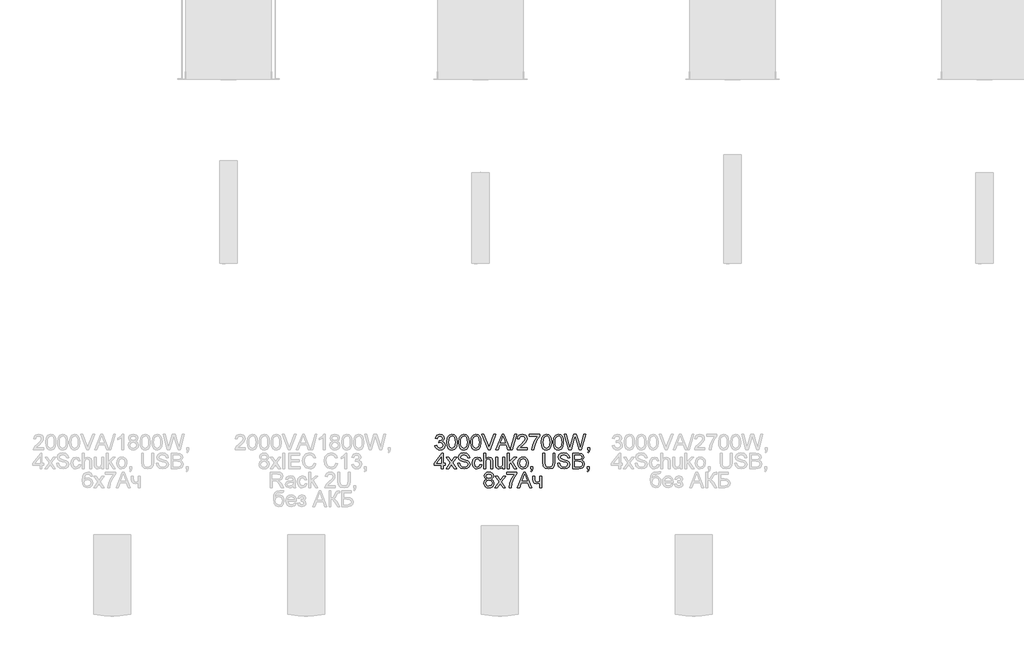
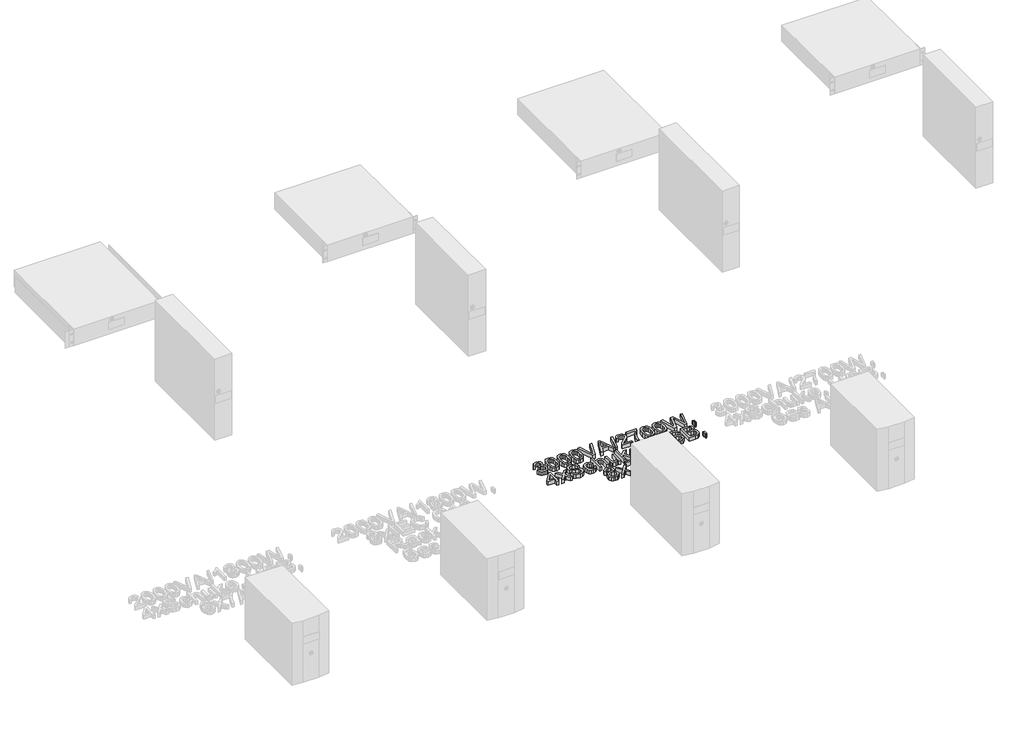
# One storey, part 58 of 74: 1 proxy.
"""IFC4 building model written with IfcOpenShell, lengths in millimetres."""

from ifc_helpers import new_model, si_unit, origin, origin_with_axes, place, context, project, spatial, polyline, outline, extrude, element, save

model = new_model("IFC4")

# Units and contexts
model_context = context("Model", 3, world=origin())
ifc_project = project(units=[si_unit("LENGTHUNIT", "METRE", prefix="MILLI")], contexts=[model_context])

# Site, building, storey
site = spatial("IfcSite", under=ifc_project)
building = spatial("IfcBuilding", under=site)
storey = spatial("IfcBuildingStorey", under=building, Name="Этаж 01", Elevation=0.0)

# Proxy
placement = place(None, origin())
element("IfcBuildingElementProxy", 1, Name="80 мм Arial", ObjectType="80 мм Arial", at=placement, inside=storey, context=model_context, shape_type="SweptSolid", body=[
    extrude(outline(polyline([(5017.6292761, -716.2878926), (5027.6749071, -715.0321887), (5033.2176625, -725.6075698), (5043.5870297, -728.8449313), (5055.7909018, -724.3911066), (5060.3232079, -713.364457), (5055.8301425, -702.9754694), (5044.4110854, -698.8650013), (5037.3673714, -699.9637422), (5038.4857327, -689.9181112), (5040.0946033, -690.0358334), (5051.4940401, -687.1516385), (5056.5560963, -678.2832299), (5052.8870865, -670.4252705), (5043.4300667, -667.3154414), (5033.8553247, -670.4547011), (5028.930611, -679.8724801), (5018.88498, -678.6167763), (5027.1059163, -662.8616167), (5043.0769, -657.2698104), (5055.1924804, -660.0264728), (5063.6684816, -667.560696), (5066.6017273, -677.6946187), (5063.8156344, -686.9554348), (5055.5750777, -693.6067413), (5066.5232458, -700.4738719), (5070.368839, -713.5410403), (5068.4460424, -723.3316065), (5062.6776527, -731.5133021), (5053.9711122, -737.0462473), (5043.233863, -738.8905623), (5033.5217783, -737.3160274), (5025.614768, -732.5924226), (5020.1161584, -725.3672202), (5017.6292761, -716.2878926)])), origin_with_axes(), (0.0, 0.0, 1.0), 20.0),
    extrude(outline(polyline([(5079.1587661, -698.0998067), (5082.1116322, -674.9771971), (5090.881939, -661.6451535), (5105.5285475, -657.2698104), (5117.2615306, -659.8596996), (5125.3647447, -667.3252516), (5130.0736342, -679.2151976), (5131.8983289, -698.0998067), (5128.9748933, -721.1243145), (5120.2340171, -734.4857886), (5105.5285475, -738.8905623), (5095.090509, -736.977576), (5087.1638783, -731.2386168), (5081.1600442, -717.6466034), (5079.1587661, -698.0998067)]), holes=[polyline([(5089.2043971, -698.0801864), (5090.3816195, -713.8819443), (5093.9132867, -723.0274907), (5105.5285475, -728.8449313), (5117.1438084, -723.0078703), (5120.6754755, -713.8574189), (5121.8526979, -698.0801864), (5120.7147163, -682.6340476), (5117.3007714, -673.4173774), (5112.0523216, -668.8409254), (5105.4108253, -667.3154414), (5094.0702496, -672.6914236), (5090.4208602, -682.4819898), (5089.2043971, -698.0801864)])]), origin_with_axes(), (0.0, 0.0, 1.0), 20.0),
    extrude(outline(polyline([(5140.6882561, -698.0998067), (5143.6411222, -674.9771971), (5152.411429, -661.6451535), (5167.0580375, -657.2698104), (5178.7910206, -659.8596996), (5186.8942347, -667.3252516), (5191.6031242, -679.2151976), (5193.4278189, -698.0998067), (5190.5043833, -721.1243145), (5181.7635071, -734.4857886), (5167.0580375, -738.8905623), (5156.619999, -736.977576), (5148.6933683, -731.2386168), (5142.6895341, -717.6466034), (5140.6882561, -698.0998067)]), holes=[polyline([(5150.7338871, -698.0801864), (5151.9111095, -713.8819443), (5155.4427766, -723.0274907), (5167.0580375, -728.8449313), (5178.6732983, -723.0078703), (5182.2049655, -713.8574189), (5183.3821879, -698.0801864), (5182.2442062, -682.6340476), (5178.8302613, -673.4173774), (5173.5818115, -668.8409254), (5166.9403152, -667.3154414), (5155.5997396, -672.6914236), (5151.9503502, -682.4819898), (5150.7338871, -698.0801864)])]), origin_with_axes(), (0.0, 0.0, 1.0), 20.0),
    extrude(outline(polyline([(5202.217746, -698.0998067), (5205.1706122, -674.9771971), (5213.9409189, -661.6451535), (5228.5875274, -657.2698104), (5240.3205105, -659.8596996), (5248.4237246, -667.3252516), (5253.1326142, -679.2151976), (5254.9573089, -698.0998067), (5252.0338733, -721.1243145), (5243.2929971, -734.4857886), (5228.5875274, -738.8905623), (5218.149489, -736.977576), (5210.2228582, -731.2386168), (5204.2190241, -717.6466034), (5202.217746, -698.0998067)]), holes=[polyline([(5212.263377, -698.0801864), (5213.4405994, -713.8819443), (5216.9722666, -723.0274907), (5228.5875274, -728.8449313), (5240.2027883, -723.0078703), (5243.7344555, -713.8574189), (5244.9116778, -698.0801864), (5243.7736962, -682.6340476), (5240.3597513, -673.4173774), (5235.1113015, -668.8409254), (5228.4698052, -667.3154414), (5217.1292296, -672.6914236), (5213.4798402, -682.4819898), (5212.263377, -698.0801864)])]), origin_with_axes(), (0.0, 0.0, 1.0), 20.0),
    extrude(outline(polyline([(5291.2549991, -737.6348585), (5259.2737909, -657.2698104), (5270.0257554, -657.2698104), (5291.4315824, -715.1695313), (5295.7676849, -728.2170794), (5300.0449262, -715.1695313), (5321.5096143, -657.2698104), (5332.2615788, -657.2698104), (5301.6341764, -737.6348585), (5291.2549991, -737.6348585)])), origin_with_axes(), (0.0, 0.0, 1.0), 20.0),
    extrude(outline(polyline([(5332.2419584, -737.6348585), (5364.3212684, -657.2698104), (5372.875751, -657.2698104), (5404.955061, -737.6348585), (5394.3404392, -737.6348585), (5385.1384842, -712.5207809), (5352.0389148, -712.5207809), (5342.8565802, -737.6348585), (5332.2419584, -737.6348585)]), holes=[polyline([(5355.727545, -702.4751499), (5381.4694745, -702.4751499), (5374.2295568, -682.7174342), (5368.5985097, -667.3154414), (5363.5953146, -680.9908414), (5355.727545, -702.4751499)])]), origin_with_axes(), (0.0, 0.0, 1.0), 20.0),
    extrude(outline(polyline([(5406.897478, -737.6348585), (5429.5001477, -657.2698104), (5438.5647601, -657.2698104), (5415.9620903, -737.6348585), (5406.897478, -737.6348585)])), origin_with_axes(), (0.0, 0.0, 1.0), 20.0),
    extrude(outline(polyline([(5494.7967493, -727.5892275), (5494.7967493, -737.6348585), (5442.0571865, -737.6348585), (5443.136307, -730.7088668), (5449.2382431, -720.045194), (5461.8149022, -708.4005026), (5479.159312, -691.6643244), (5483.4954145, -680.284508), (5479.4045667, -671.0727428), (5468.7212735, -667.3154414), (5457.5867118, -670.9844511), (5453.3585214, -681.128184), (5443.3128904, -679.8724801), (5445.7482692, -670.1554904), (5451.0138868, -663.0578204), (5458.835058, -658.7168129), (5468.9370976, -657.2698104), (5479.1127136, -658.8786809), (5486.9191696, -663.7052927), (5491.8855765, -670.9157798), (5493.5410455, -679.6762764), (5491.7555915, -689.2019675), (5485.8204287, -699.0513948), (5471.428885, -712.8150865), (5459.8724853, -722.4781203), (5455.3401791, -727.5892275), (5494.7967493, -727.5892275)])), origin_with_axes(), (0.0, 0.0, 1.0), 20.0),
    extrude(outline(polyline([(5504.8423804, -668.5711452), (5504.8423804, -658.5255142), (5557.5819432, -658.5255142), (5557.5819432, -666.6483487), (5542.6214087, -688.2601896), (5531.172921, -715.7973832), (5527.4450501, -737.6348585), (5517.3994191, -737.6348585), (5521.392165, -714.9733276), (5532.3501434, -689.3589305), (5547.5363122, -668.5711452), (5504.8423804, -668.5711452)])), origin_with_axes(), (0.0, 0.0, 1.0), 20.0),
    extrude(outline(polyline([(5566.3718703, -698.0998067), (5569.3247365, -674.9771971), (5578.0950432, -661.6451535), (5592.7416517, -657.2698104), (5604.4746348, -659.8596996), (5612.5778489, -667.3252516), (5617.2867385, -679.2151976), (5619.1114332, -698.0998067), (5616.1879976, -721.1243145), (5607.4471214, -734.4857886), (5592.7416517, -738.8905623), (5582.3036133, -736.977576), (5574.3769825, -731.2386168), (5568.3731484, -717.6466034), (5566.3718703, -698.0998067)]), holes=[polyline([(5576.4175013, -698.0801864), (5577.5947237, -713.8819443), (5581.1263909, -723.0274907), (5592.7416517, -728.8449313), (5604.3569126, -723.0078703), (5607.8885798, -713.8574189), (5609.0658021, -698.0801864), (5607.9278205, -682.6340476), (5604.5138756, -673.4173774), (5599.2654258, -668.8409254), (5592.6239295, -667.3154414), (5581.2833539, -672.6914236), (5577.6339645, -682.4819898), (5576.4175013, -698.0801864)])]), origin_with_axes(), (0.0, 0.0, 1.0), 20.0),
    extrude(outline(polyline([(5627.9013603, -698.0998067), (5630.8542264, -674.9771971), (5639.6245332, -661.6451535), (5654.2711417, -657.2698104), (5666.0041248, -659.8596996), (5674.1073389, -667.3252516), (5678.8162284, -679.2151976), (5680.6409231, -698.0998067), (5677.7174875, -721.1243145), (5668.9766113, -734.4857886), (5654.2711417, -738.8905623), (5643.8331032, -736.977576), (5635.9064725, -731.2386168), (5629.9026383, -717.6466034), (5627.9013603, -698.0998067)]), holes=[polyline([(5637.9469913, -698.0801864), (5639.1242137, -713.8819443), (5642.6558808, -723.0274907), (5654.2711417, -728.8449313), (5665.8864026, -723.0078703), (5669.4180697, -713.8574189), (5670.5952921, -698.0801864), (5669.4573105, -682.6340476), (5666.0433656, -673.4173774), (5660.7949158, -668.8409254), (5654.1534195, -667.3154414), (5642.8128438, -672.6914236), (5639.1634544, -682.4819898), (5637.9469913, -698.0801864)])]), origin_with_axes(), (0.0, 0.0, 1.0), 20.0),
    extrude(outline(polyline([(5707.5796954, -737.6348585), (5685.6637386, -657.2698104), (5696.0232956, -657.2698104), (5708.7372974, -710.0878547), (5712.661372, -726.3923847), (5716.8601318, -711.9714105), (5732.7918748, -657.2698104), (5747.7229787, -657.2698104), (5759.2989988, -696.9225843), (5767.9123426, -726.3923847), (5771.7186949, -710.5587436), (5784.5504189, -657.2698104), (5794.9099759, -657.2698104), (5772.9743988, -737.6348585), (5762.2420547, -737.6348585), (5742.9748484, -675.6344796), (5740.2868573, -666.981895), (5737.2653198, -677.4003131), (5719.7050859, -737.6348585), (5707.5796954, -737.6348585)])), origin_with_axes(), (0.0, 0.0, 1.0), 20.0),
    extrude(outline(polyline([(5806.2113108, -737.6348585), (5806.2113108, -727.5892275), (5816.2569418, -727.5892275), (5816.2569418, -737.6348585), (5814.4518675, -747.9061238), (5808.7227186, -753.9590089), (5806.2113108, -750.1918972), (5809.8999409, -745.8557948), (5811.2145059, -737.6348585), (5806.2113108, -737.6348585)])), origin_with_axes(), (0.0, 0.0, 1.0), 20.0),
    extrude(outline(polyline([(5050.2775769, -835.2147127), (5050.2775769, -816.3791546), (5013.8621645, -816.3791546), (5013.8621645, -806.3335236), (5052.7889847, -756.1053685), (5060.3232079, -756.1053685), (5060.3232079, -806.3335236), (5070.368839, -806.3335236), (5070.368839, -816.3791546), (5060.3232079, -816.3791546), (5060.3232079, -835.2147127), (5050.2775769, -835.2147127)]), holes=[polyline([(5050.2775769, -806.3335236), (5050.2775769, -775.2940934), (5026.2229995, -806.3335236), (5050.2775769, -806.3335236)])]), origin_with_axes(), (0.0, 0.0, 1.0), 20.0),
    extrude(outline(polyline([(5075.3916545, -835.2147127), (5096.8563426, -805.5487087), (5076.6473583, -776.1966305), (5088.7335082, -776.1966305), (5098.4848336, -790.3232991), (5103.0367601, -796.994226), (5106.9804551, -791.5397623), (5118.0855863, -776.1966305), (5130.1717361, -776.1966305), (5108.9424924, -805.5487087), (5129.3869212, -835.2147127), (5117.3007714, -835.2147127), (5104.9987974, -817.3797936), (5102.7424545, -814.1228117), (5087.4778043, -835.2147127), (5075.3916545, -835.2147127)])), origin_with_axes(), (0.0, 0.0, 1.0), 20.0),
    extrude(outline(polyline([(5135.6654406, -807.5892275), (5145.7110716, -807.5892275), (5148.9484331, -817.6446687), (5156.8554435, -824.0016695), (5168.9023525, -826.4247856), (5179.3992521, -824.5902807), (5186.178091, -819.5478448), (5188.4050034, -812.8082467), (5186.7372717, -806.5395375), (5179.9093818, -801.9778008), (5165.2823937, -798.1420178), (5149.5370443, -793.1878736), (5140.9923718, -785.7125115), (5138.1768483, -775.7257416), (5141.6594645, -764.3557354), (5151.832628, -756.3310028), (5166.7244911, -753.5939608), (5182.6169933, -756.4585352), (5193.2119948, -764.8756753), (5197.1949305, -777.4523344), (5187.1492995, -777.4523344), (5181.4593913, -767.1320182), (5167.1168986, -763.6395918), (5152.7351651, -767.0927774), (5148.2224793, -775.431436), (5151.4206001, -782.3966684), (5167.823232, -788.0080951), (5185.59929, -793.050531), (5195.3211849, -801.1929858), (5198.4506344, -812.5531818), (5194.8502959, -824.5706604), (5184.490739, -833.3409671), (5169.29476, -836.4704166), (5151.3519288, -833.0957125), (5140.001543, -822.9323592), (5135.6654406, -807.5892275)])), origin_with_axes(), (0.0, 0.0, 1.0), 20.0),
    extrude(outline(polyline([(5249.9344934, -813.8677468), (5259.9801244, -815.1234507), (5257.1793161, -824.0580781), (5251.916151, -830.809939), (5235.9844081, -836.4704166), (5225.2986624, -834.4961166), (5216.942836, -828.5732165), (5211.549686, -818.9616862), (5209.7519693, -805.9214957), (5212.8225577, -789.2343684), (5222.1814756, -778.5118346), (5235.8470655, -774.9409267), (5251.1215259, -779.8460199), (5258.7244205, -793.7764848), (5248.6787895, -795.0321887), (5244.0189509, -787.5077756), (5235.925547, -784.9865577), (5224.2808556, -789.9505121), (5219.7976003, -805.6468105), (5224.1827537, -821.4902618), (5235.6508618, -826.4247856), (5245.1176918, -823.344387), (5249.9344934, -813.8677468)])), origin_with_axes(), (0.0, 0.0, 1.0), 20.0),
    extrude(outline(polyline([(5268.7700515, -835.2147127), (5268.7700515, -754.8496646), (5278.8156825, -754.8496646), (5278.8156825, -784.3979465), (5286.6491165, -777.3051816), (5296.2974349, -774.9409267), (5307.5791495, -777.5210057), (5314.4266597, -784.6530113), (5316.4867988, -797.8575224), (5316.4867988, -835.2147127), (5306.4411678, -835.2147127), (5306.4411678, -798.8974022), (5303.243047, -788.3024007), (5294.1784346, -784.9865577), (5285.9476881, -787.2232802), (5280.4539837, -793.2859755), (5278.8156825, -803.8613566), (5278.8156825, -835.2147127), (5268.7700515, -835.2147127)])), origin_with_axes(), (0.0, 0.0, 1.0), 20.0),
    extrude(outline(polyline([(5367.9706578, -835.2147127), (5367.9706578, -825.0709799), (5360.1028882, -833.6205574), (5349.8414331, -836.4704166), (5340.3942234, -834.4691386), (5333.8802596, -829.4463231), (5330.8881527, -822.0494424), (5330.2995415, -812.7101448), (5330.2995415, -776.1966305), (5340.3451725, -776.1966305), (5340.3451725, -807.9816349), (5340.9534041, -818.2234697), (5344.9265296, -824.237114), (5352.4117019, -826.4247856), (5360.7994114, -824.1880631), (5366.3421668, -818.0959372), (5367.9706578, -806.9025144), (5367.9706578, -776.1966305), (5378.0162888, -776.1966305), (5378.0162888, -835.2147127), (5367.9706578, -835.2147127)])), origin_with_axes(), (0.0, 0.0, 1.0), 20.0),
    extrude(outline(polyline([(5391.8290314, -835.2147127), (5391.8290314, -754.8496646), (5401.8746625, -754.8496646), (5401.8746625, -798.0341058), (5424.3988507, -776.1966305), (5438.2900749, -776.1966305), (5415.4912014, -798.308791), (5439.5457788, -835.2147127), (5427.8127957, -835.2147127), (5408.2905245, -805.2936438), (5401.8746625, -811.5133021), (5401.8746625, -835.2147127), (5391.8290314, -835.2147127)])), origin_with_axes(), (0.0, 0.0, 1.0), 20.0),
    extrude(outline(polyline([(5445.8242981, -805.7056716), (5447.9972545, -791.4759961), (5454.5161234, -781.4745109), (5462.5702866, -776.5743227), (5472.2136999, -774.9409267), (5482.7670081, -776.929942), (5491.1964109, -782.8969879), (5496.7219985, -792.3711756), (5498.563861, -804.881616), (5495.306879, -822.7557758), (5485.8204287, -832.8700782), (5472.2136999, -836.4704166), (5461.5328593, -834.4887589), (5453.1132667, -828.5437859), (5447.6465403, -818.870942), (5445.8242981, -805.7056716)]), holes=[polyline([(5455.8699292, -805.6860513), (5460.5199576, -821.2548173), (5472.2136999, -826.4247856), (5483.8682015, -821.2253867), (5488.51823, -805.3721253), (5483.838771, -790.156526), (5472.2136999, -784.9865577), (5460.5199576, -790.1369056), (5455.8699292, -805.6860513)])]), origin_with_axes(), (0.0, 0.0, 1.0), 20.0),
    extrude(outline(polyline([(5512.3766036, -835.2147127), (5512.3766036, -825.1690817), (5522.4222346, -825.1690817), (5522.4222346, -835.2147127), (5520.6171603, -845.4859781), (5514.8880114, -851.5388631), (5512.3766036, -847.7717515), (5516.0652338, -843.4356491), (5517.3797988, -835.2147127), (5512.3766036, -835.2147127)])), origin_with_axes(), (0.0, 0.0, 1.0), 20.0),
    extrude(outline(polyline([(5626.6456564, -754.8496646), (5636.6912874, -754.8496646), (5636.6912874, -801.2126062), (5633.9640556, -820.4307616), (5624.1342487, -832.0067817), (5605.4948942, -836.4704166), (5587.1400352, -832.5855828), (5576.9570616, -821.3332988), (5573.9060936, -801.2126062), (5573.9060936, -754.8496646), (5583.9517246, -754.8496646), (5583.9517246, -800.8594395), (5585.9333823, -816.1731407), (5592.7416517, -823.7564149), (5604.5531163, -826.4247856), (5614.7704256, -825.1053155), (5621.5639798, -821.1469053), (5625.3752373, -813.4360986), (5626.6456564, -800.8594395), (5626.6456564, -754.8496646)])), origin_with_axes(), (0.0, 0.0, 1.0), 20.0),
    extrude(outline(polyline([(5650.5040301, -807.5892275), (5660.5496611, -807.5892275), (5663.7870226, -817.6446687), (5671.694033, -824.0016695), (5683.7409421, -826.4247856), (5694.2378417, -824.5902807), (5701.0166806, -819.5478448), (5703.2435929, -812.8082467), (5701.5758612, -806.5395375), (5694.7479714, -801.9778008), (5680.1209832, -798.1420178), (5664.3756338, -793.1878736), (5655.8309614, -785.7125115), (5653.0154378, -775.7257416), (5656.498054, -764.3557354), (5666.6712175, -756.3310028), (5681.5630807, -753.5939608), (5697.4555828, -756.4585352), (5708.0505843, -764.8756753), (5712.03352, -777.4523344), (5701.987889, -777.4523344), (5696.2979808, -767.1320182), (5681.9554881, -763.6395918), (5667.5737547, -767.0927774), (5663.0610688, -775.431436), (5666.2591897, -782.3966684), (5682.6618215, -788.0080951), (5700.4378796, -793.050531), (5710.1597744, -801.1929858), (5713.2892239, -812.5531818), (5709.6888855, -824.5706604), (5699.3293285, -833.3409671), (5684.1333495, -836.4704166), (5666.1905183, -833.0957125), (5654.8401325, -822.9323592), (5650.5040301, -807.5892275)])), origin_with_axes(), (0.0, 0.0, 1.0), 20.0),
    extrude(outline(polyline([(5728.3576704, -835.2147127), (5728.3576704, -754.8496646), (5759.0243136, -754.8496646), (5774.0437091, -757.2139196), (5782.9121178, -764.4832678), (5786.1200488, -774.7643433), (5783.4222475, -784.1526918), (5775.2699825, -791.2650771), (5785.1684607, -798.7600596), (5788.6314565, -811.2582372), (5786.2672016, -822.0592526), (5780.4105202, -829.7504388), (5771.669644, -833.8314764), (5758.7888691, -835.2147127), (5728.3576704, -835.2147127)]), holes=[polyline([(5738.4033015, -787.4979654), (5756.7483503, -787.4979654), (5767.461074, -786.634669), (5773.9063665, -782.9166083), (5776.0744178, -776.3732139), (5774.0535193, -769.8200093), (5768.2655093, -765.9449856), (5755.3553038, -764.8952956), (5738.4033015, -764.8952956), (5738.4033015, -787.4979654)]), polyline([(5738.4033015, -825.1690817), (5759.0046932, -825.1690817), (5766.460435, -824.7766743), (5772.7683849, -822.5890027), (5776.9475244, -818.1253678), (5778.5858255, -811.3563391), (5776.663029, -803.5474306), (5770.4335605, -798.887592), (5758.0236745, -797.5435964), (5738.4033015, -797.5435964), (5738.4033015, -825.1690817)])]), origin_with_axes(), (0.0, 0.0, 1.0), 20.0),
    extrude(outline(polyline([(5803.6999031, -835.2147127), (5803.6999031, -825.1690817), (5813.7455341, -825.1690817), (5813.7455341, -835.2147127), (5811.9404597, -845.4859781), (5806.2113108, -851.5388631), (5803.6999031, -847.7717515), (5807.3885332, -843.4356491), (5808.7030982, -835.2147127), (5803.6999031, -835.2147127)])), origin_with_axes(), (0.0, 0.0, 1.0), 20.0),
    extrude(outline(polyline([(5284.0347018, -888.5310054), (5274.8817977, -882.2917267), (5271.9093112, -872.5796421), (5273.527992, -864.7265877), (5278.3840343, -858.2371493), (5285.9329729, -853.8814265), (5295.6303422, -852.4295189), (5305.3865728, -853.9157622), (5313.0336132, -858.3744919), (5317.9779472, -864.9669373), (5319.6260585, -872.8543273), (5316.6928127, -882.3211573), (5307.7949736, -888.5310054), (5318.4782667, -896.4085852), (5322.1374663, -909.4070823), (5320.3225818, -919.0112549), (5314.8779282, -926.9476958), (5306.4705984, -932.2746271), (5295.7676849, -934.0502709), (5285.0647713, -932.2672695), (5276.6574415, -926.9182653), (5271.212788, -918.9057954), (5269.3979034, -909.1323971), (5273.2042558, -895.8297841), (5284.0347018, -888.5310054)]), holes=[polyline([(5281.9549422, -872.8739476), (5285.5160399, -880.7613376), (5295.8854071, -883.8221158), (5306.0487604, -880.780958), (5309.5804275, -873.3252162), (5305.9310381, -865.6045994), (5295.7676849, -862.4751499), (5285.574901, -865.5359281), (5281.9549422, -872.8739476)]), polyline([(5279.4435345, -908.7792304), (5281.1210764, -916.3428842), (5287.0562392, -922.0033618), (5295.8461664, -924.0046399), (5307.8145939, -919.7960699), (5312.0918353, -909.0931563), (5307.6772513, -898.1842289), (5295.51262, -893.8677468), (5283.6913452, -898.1253678), (5279.4435345, -908.7792304)])]), origin_with_axes(), (0.0, 0.0, 1.0), 20.0),
    extrude(outline(polyline([(5327.1602818, -932.794567), (5348.6249699, -903.1285629), (5328.4159857, -873.7764848), (5340.5021355, -873.7764848), (5350.2534609, -887.9031534), (5354.8053874, -894.5740803), (5358.7490824, -889.1196166), (5369.8542136, -873.7764848), (5381.9403634, -873.7764848), (5360.7111197, -903.1285629), (5381.1555485, -932.794567), (5369.0693987, -932.794567), (5356.7674248, -914.9596479), (5354.5110818, -911.702666), (5339.2464316, -932.794567), (5327.1602818, -932.794567)])), origin_with_axes(), (0.0, 0.0, 1.0), 20.0),
    extrude(outline(polyline([(5387.4340679, -863.7308538), (5387.4340679, -853.6852228), (5440.1736307, -853.6852228), (5440.1736307, -861.8080572), (5425.2130962, -883.4198982), (5413.7646085, -910.9570918), (5410.0367377, -932.794567), (5399.9911066, -932.794567), (5403.9838526, -910.1330361), (5414.9418309, -884.5186391), (5430.1279997, -863.7308538), (5387.4340679, -863.7308538)])), origin_with_axes(), (0.0, 0.0, 1.0), 20.0),
    extrude(outline(polyline([(5443.3717515, -932.794567), (5475.4510615, -852.4295189), (5484.0055442, -852.4295189), (5516.0848541, -932.794567), (5505.4702323, -932.794567), (5496.2682773, -907.6804895), (5463.1687079, -907.6804895), (5453.9863733, -932.794567), (5443.3717515, -932.794567)]), holes=[polyline([(5466.8573381, -897.6348585), (5492.5992676, -897.6348585), (5485.3593499, -877.8771428), (5479.7283028, -862.4751499), (5474.7251077, -876.15055), (5466.8573381, -897.6348585)])]), origin_with_axes(), (0.0, 0.0, 1.0), 20.0),
    extrude(outline(polyline([(5521.7943827, -873.7764848), (5531.8400137, -873.7764848), (5531.8400137, -885.0974401), (5532.6542592, -895.7120619), (5536.5685236, -901.4608312), (5544.3381914, -903.9133779), (5558.2097951, -900.87222), (5558.2097951, -873.7764848), (5568.2554261, -873.7764848), (5568.2554261, -932.794567), (5558.2097951, -932.794567), (5558.2097951, -910.5058232), (5541.6502002, -913.9590089), (5530.2605737, -910.3586704), (5523.5602163, -901.5393127), (5521.7943827, -890.0613945), (5521.7943827, -873.7764848)])), origin_with_axes(), (0.0, 0.0, 1.0), 20.0),
])

save(model, "model.ifc")
